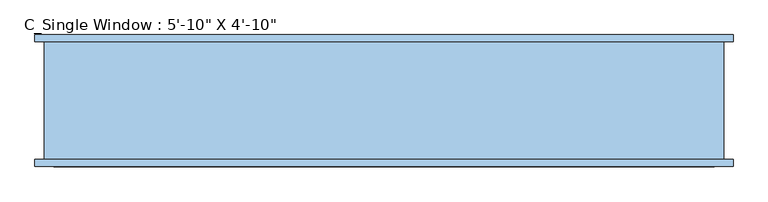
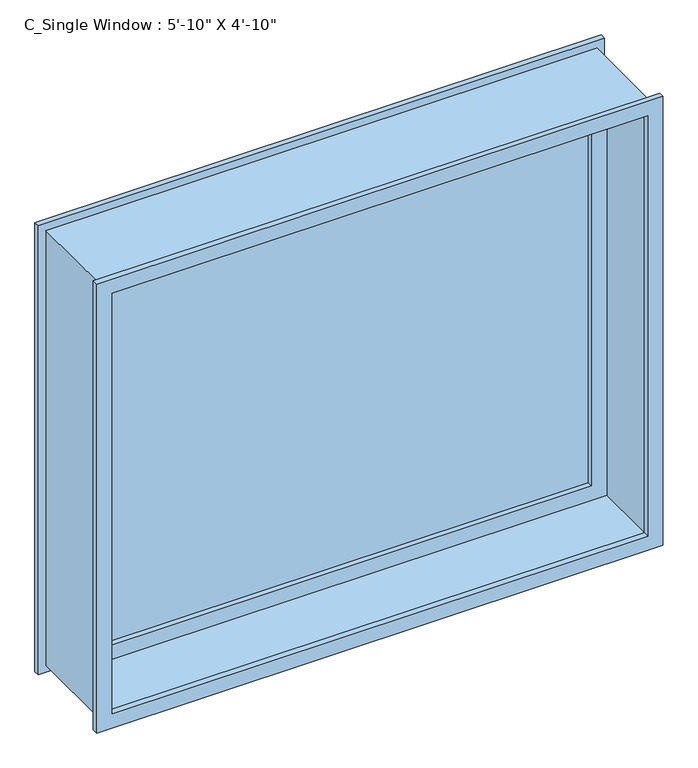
"""IFC4 building model written with IfcOpenShell, lengths in millimetres: window geometry."""

from ifc_helpers import new_model, si_unit, frame, origin, place, context, project, spatial, polyline, outline, extrude, source, transform, mapped, element, save


def window_c5c9dc02(model_context):
    return source(origin(), model_context, "Body", "SweptSolid", [
        extrude(outline(polyline([(-838.2, 88.9), (838.2, 88.9), (838.2, 76.2), (-838.2, 76.2), (-838.2, 88.9)])), frame((0.0, 0.0, 863.6), z_axis=(0.0, 0.0, 1.0), x_axis=(1.0, 0.0, 0.0)), (0.0, 0.0, 1.0), 1371.6),
        extrude(outline(polyline([(2286.0, -889.0), (812.8, -889.0), (812.8, 889.0), (2286.0, 889.0), (2286.0, -889.0)]), holes=[polyline([(2235.2, 838.2), (863.6, 838.2), (863.6, -838.2), (2235.2, -838.2), (2235.2, 838.2)])]), frame((0.0, 57.15, 0.0), z_axis=(0.0, 1.0, 0.0), x_axis=(0.0, 0.0, 1.0)), (0.0, 0.0, 1.0), 50.8),
        extrude(outline(polyline([(2336.8, -939.8), (762.0, -939.8), (762.0, 939.8), (2336.8, 939.8), (2336.8, -939.8)]), holes=[polyline([(2286.0, -889.0), (2286.0, 889.0), (812.8, 889.0), (812.8, -889.0), (2286.0, -889.0)])]), frame((0.0, 158.75, 0.0), z_axis=(0.0, 1.0, 0.0), x_axis=(0.0, 0.0, 1.0)), (0.0, 0.0, 1.0), 19.05),
        extrude(outline(polyline([(2336.8, -939.8), (762.0, -939.8), (762.0, 939.8), (2336.8, 939.8), (2336.8, -939.8)]), holes=[polyline([(2286.0, -889.0), (2286.0, 889.0), (812.8, 889.0), (812.8, -889.0), (2286.0, -889.0)])]), frame((0.0, -177.8, 0.0), z_axis=(0.0, 1.0, 0.0), x_axis=(0.0, 0.0, 1.0)), (0.0, 0.0, 1.0), 19.05),
        extrude(outline(polyline([(2311.4, 914.4), (2311.4, -914.4), (787.4, -914.4), (787.4, 914.4), (2311.4, 914.4)]), holes=[polyline([(2286.0, -889.0), (2286.0, 889.0), (812.8, 889.0), (812.8, -889.0), (2286.0, -889.0)])]), frame((0.0, -158.75, 0.0), z_axis=(0.0, 1.0, 0.0), x_axis=(0.0, 0.0, 1.0)), (0.0, 0.0, 1.0), 317.5),
    ])


if __name__ == "__main__":
    model = new_model("IFC4")
    model_context = context("Model", 3, world=origin())
    ifc_project = project(units=[si_unit("LENGTHUNIT", "METRE", prefix="MILLI")], contexts=[model_context])
    site = spatial("IfcSite", under=ifc_project)
    building = spatial("IfcBuilding", under=site)
    placement = place(None, origin())
    window_shape = window_c5c9dc02(model_context)
    element("IfcWindow", 1, ObjectType="C_Single Window : 5'-10\" X 4'-10\"", at=placement, inside=building, context=model_context, shape_type="MappedRepresentation", body=[
        mapped(window_shape, transform((0.0, 0.0, 0.0), x_axis=(1.0, 0.0, 0.0), y_axis=(0.0, 1.0, 0.0), z_axis=(0.0, 0.0, 1.0))),
    ])
    save(model, "model.ifc")
